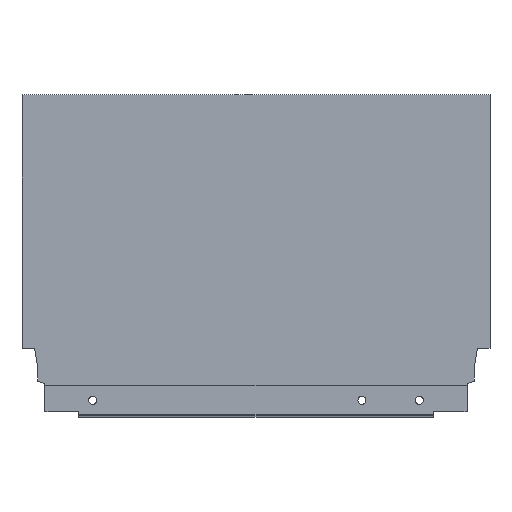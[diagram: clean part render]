
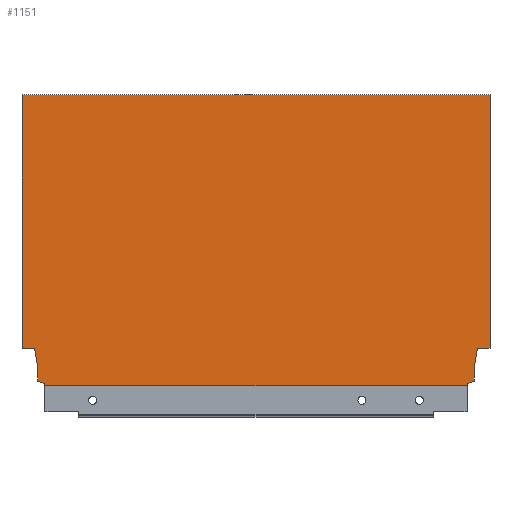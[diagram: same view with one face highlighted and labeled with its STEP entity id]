
A CAD part, top view. The second image highlights one B-rep face of the part: STEP entity #1151.
In plain terms, the highlighted planar face has unit normal (0, 0, 1).
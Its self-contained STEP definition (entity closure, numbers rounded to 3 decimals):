
#108 = EDGE_CURVE ( 'NONE', #1416, #1393, #773, .T. ) ;
#110 = EDGE_CURVE ( 'NONE', #1513, #1378, #777, .T. ) ;
#112 = EDGE_CURVE ( 'NONE', #1378, #1346, #781, .T. ) ;
#113 = EDGE_CURVE ( 'NONE', #1393, #1513, #783, .T. ) ;
#114 = EDGE_CURVE ( 'NONE', #1346, #1430, #785, .T. ) ;
#115 = EDGE_CURVE ( 'NONE', #1430, #1276, #787, .T. ) ;
#116 = EDGE_CURVE ( 'NONE', #1416, #1488, #789, .T. ) ;
#117 = EDGE_CURVE ( 'NONE', #1276, #1353, #768, .T. ) ;
#118 = EDGE_CURVE ( 'NONE', #1295, #1269, #793, .T. ) ;
#119 = EDGE_CURVE ( 'NONE', #1269, #1471, #795, .T. ) ;
#120 = EDGE_CURVE ( 'NONE', #1471, #1448, #797, .T. ) ;
#121 = EDGE_CURVE ( 'NONE', #1448, #1488, #799, .T. ) ;
#122 = EDGE_CURVE ( 'NONE', #1356, #1353, #801, .T. ) ;
#125 = EDGE_CURVE ( 'NONE', #1356, #1295, #776, .T. ) ;
#158 = AXIS2_PLACEMENT_3D ( 'NONE', #679, #673, #672 ) ;
#283 = ORIENTED_EDGE ( 'NONE', *, *, #116, .T. ) ;
#284 = ORIENTED_EDGE ( 'NONE', *, *, #121, .F. ) ;
#285 = ORIENTED_EDGE ( 'NONE', *, *, #120, .F. ) ;
#286 = ORIENTED_EDGE ( 'NONE', *, *, #119, .F. ) ;
#287 = ORIENTED_EDGE ( 'NONE', *, *, #118, .F. ) ;
#288 = ORIENTED_EDGE ( 'NONE', *, *, #125, .F. ) ;
#289 = ORIENTED_EDGE ( 'NONE', *, *, #114, .F. ) ;
#290 = ORIENTED_EDGE ( 'NONE', *, *, #115, .F. ) ;
#291 = ORIENTED_EDGE ( 'NONE', *, *, #117, .F. ) ;
#292 = ORIENTED_EDGE ( 'NONE', *, *, #122, .T. ) ;
#293 = ORIENTED_EDGE ( 'NONE', *, *, #112, .F. ) ;
#295 = ORIENTED_EDGE ( 'NONE', *, *, #108, .F. ) ;
#296 = ORIENTED_EDGE ( 'NONE', *, *, #113, .F. ) ;
#297 = ORIENTED_EDGE ( 'NONE', *, *, #110, .F. ) ;
#308 = EDGE_LOOP ( 'NONE', ( #283, #284, #285, #286, #287, #288, #292, #291, #290, #289, #293, #297, #296, #295 ) ) ;
#672 = DIRECTION ( 'NONE',  ( 1., 0., 0. ) ) ;
#673 = DIRECTION ( 'NONE',  ( 0., 0., 1. ) ) ;
#679 = CARTESIAN_POINT ( 'NONE',  ( -265., 0., 7.5 ) ) ;
#682 = PLANE ( 'NONE',  #158 ) ;
#768 = LINE ( 'NONE', #1235, #791 ) ;
#770 = VECTOR ( 'NONE', #1253, 1000. ) ;
#773 = LINE ( 'NONE', #1237, #774 ) ;
#774 = VECTOR ( 'NONE', #1236, 1000. ) ;
#776 = LINE ( 'NONE', #1189, #770 ) ;
#777 = LINE ( 'NONE', #1232, #778 ) ;
#778 = VECTOR ( 'NONE', #1231, 1000. ) ;
#781 = LINE ( 'NONE', #1228, #782 ) ;
#782 = VECTOR ( 'NONE', #1226, 1000. ) ;
#783 = LINE ( 'NONE', #1225, #784 ) ;
#784 = VECTOR ( 'NONE', #1222, 1000. ) ;
#785 = LINE ( 'NONE', #1221, #786 ) ;
#786 = VECTOR ( 'NONE', #1218, 1000. ) ;
#787 = LINE ( 'NONE', #1217, #788 ) ;
#788 = VECTOR ( 'NONE', #1216, 1000. ) ;
#789 = LINE ( 'NONE', #1214, #790 ) ;
#790 = VECTOR ( 'NONE', #1212, 1000. ) ;
#791 = VECTOR ( 'NONE', #1210, 1000. ) ;
#793 = LINE ( 'NONE', #1208, #794 ) ;
#794 = VECTOR ( 'NONE', #1207, 1000. ) ;
#795 = LINE ( 'NONE', #1206, #796 ) ;
#796 = VECTOR ( 'NONE', #1204, 1000. ) ;
#797 = LINE ( 'NONE', #1203, #798 ) ;
#798 = VECTOR ( 'NONE', #1202, 1000. ) ;
#799 = LINE ( 'NONE', #1200, #800 ) ;
#800 = VECTOR ( 'NONE', #1199, 1000. ) ;
#801 = LINE ( 'NONE', #1198, #802 ) ;
#802 = VECTOR ( 'NONE', #1196, 1000. ) ;
#837 = FACE_OUTER_BOUND ( 'NONE', #308, .T. ) ;
#991 = CARTESIAN_POINT ( 'NONE',  ( -13.004, 1.146, 7.5 ) ) ;
#992 = CARTESIAN_POINT ( 'NONE',  ( -256.1, 2.64, 7.5 ) ) ;
#1037 = CARTESIAN_POINT ( 'NONE',  ( -251.996, 1.146, 7.5 ) ) ;
#1043 = CARTESIAN_POINT ( 'NONE',  ( -257.94, 21.2, 7.5 ) ) ;
#1050 = CARTESIAN_POINT ( 'NONE',  ( -256.1, 10.765, 7.5 ) ) ;
#1053 = CARTESIAN_POINT ( 'NONE',  ( -265., 164.7, 7.5 ) ) ;
#1058 = CARTESIAN_POINT ( 'NONE',  ( 0., 164.7, 7.5 ) ) ;
#1067 = CARTESIAN_POINT ( 'NONE',  ( -7.06, 21.2, 7.5 ) ) ;
#1072 = CARTESIAN_POINT ( 'NONE',  ( -13.004, 0., 7.5 ) ) ;
#1073 = CARTESIAN_POINT ( 'NONE',  ( -251.996, 0., 7.5 ) ) ;
#1077 = CARTESIAN_POINT ( 'NONE',  ( -8.9, 10.765, 7.5 ) ) ;
#1089 = CARTESIAN_POINT ( 'NONE',  ( -8.9, 2.64, 7.5 ) ) ;
#1096 = CARTESIAN_POINT ( 'NONE',  ( -265., 21.2, 7.5 ) ) ;
#1097 = CARTESIAN_POINT ( 'NONE',  ( 0., 21.2, 7.5 ) ) ;
#1151 = ADVANCED_FACE ( 'NONE', ( #837 ), #682, .T. ) ;
#1189 = CARTESIAN_POINT ( 'NONE',  ( -251.996, 1.146, 7.5 ) ) ;
#1196 = DIRECTION ( 'NONE',  ( 1., 0., 0. ) ) ;
#1198 = CARTESIAN_POINT ( 'NONE',  ( -265., 0., 7.5 ) ) ;
#1199 = DIRECTION ( 'NONE',  ( -1., 0., 0. ) ) ;
#1200 = CARTESIAN_POINT ( 'NONE',  ( -270., 21.2, 7.5 ) ) ;
#1202 = DIRECTION ( 'NONE',  ( -0.174, 0.985, 0. ) ) ;
#1203 = CARTESIAN_POINT ( 'NONE',  ( -257.94, 21.2, 7.5 ) ) ;
#1204 = DIRECTION ( 'NONE',  ( 0., 1., 0. ) ) ;
#1206 = CARTESIAN_POINT ( 'NONE',  ( -256.1, 10.765, 7.5 ) ) ;
#1207 = DIRECTION ( 'NONE',  ( -0.94, 0.342, 0. ) ) ;
#1208 = CARTESIAN_POINT ( 'NONE',  ( -256.1, 2.64, 7.5 ) ) ;
#1210 = DIRECTION ( 'NONE',  ( 0., -1., 0. ) ) ;
#1212 = DIRECTION ( 'NONE',  ( 0., -1., 0. ) ) ;
#1214 = CARTESIAN_POINT ( 'NONE',  ( -265., 0., 7.5 ) ) ;
#1216 = DIRECTION ( 'NONE',  ( -0.94, -0.342, 0. ) ) ;
#1217 = CARTESIAN_POINT ( 'NONE',  ( -8.9, 2.64, 7.5 ) ) ;
#1218 = DIRECTION ( 'NONE',  ( 0., -1., 0. ) ) ;
#1221 = CARTESIAN_POINT ( 'NONE',  ( -8.9, 10.765, 7.5 ) ) ;
#1222 = DIRECTION ( 'NONE',  ( 0., -1., 0. ) ) ;
#1225 = CARTESIAN_POINT ( 'NONE',  ( 0., 0., 7.5 ) ) ;
#1226 = DIRECTION ( 'NONE',  ( -0.174, -0.985, 0. ) ) ;
#1228 = CARTESIAN_POINT ( 'NONE',  ( -7.06, 21.2, 7.5 ) ) ;
#1231 = DIRECTION ( 'NONE',  ( -1., 0., 0. ) ) ;
#1232 = CARTESIAN_POINT ( 'NONE',  ( 0., 21.2, 7.5 ) ) ;
#1235 = CARTESIAN_POINT ( 'NONE',  ( -13.004, 1.146, 7.5 ) ) ;
#1236 = DIRECTION ( 'NONE',  ( 1., 0., 0. ) ) ;
#1237 = CARTESIAN_POINT ( 'NONE',  ( -265., 164.7, 7.5 ) ) ;
#1253 = DIRECTION ( 'NONE',  ( 0., 1., 0. ) ) ;
#1269 = VERTEX_POINT ( 'NONE', #992 ) ;
#1276 = VERTEX_POINT ( 'NONE', #991 ) ;
#1295 = VERTEX_POINT ( 'NONE', #1037 ) ;
#1346 = VERTEX_POINT ( 'NONE', #1077 ) ;
#1353 = VERTEX_POINT ( 'NONE', #1072 ) ;
#1356 = VERTEX_POINT ( 'NONE', #1073 ) ;
#1378 = VERTEX_POINT ( 'NONE', #1067 ) ;
#1393 = VERTEX_POINT ( 'NONE', #1058 ) ;
#1416 = VERTEX_POINT ( 'NONE', #1053 ) ;
#1430 = VERTEX_POINT ( 'NONE', #1089 ) ;
#1448 = VERTEX_POINT ( 'NONE', #1043 ) ;
#1471 = VERTEX_POINT ( 'NONE', #1050 ) ;
#1488 = VERTEX_POINT ( 'NONE', #1096 ) ;
#1513 = VERTEX_POINT ( 'NONE', #1097 ) ;
